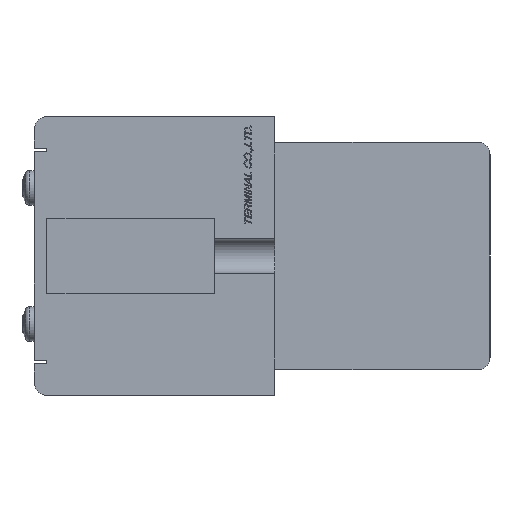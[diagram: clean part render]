
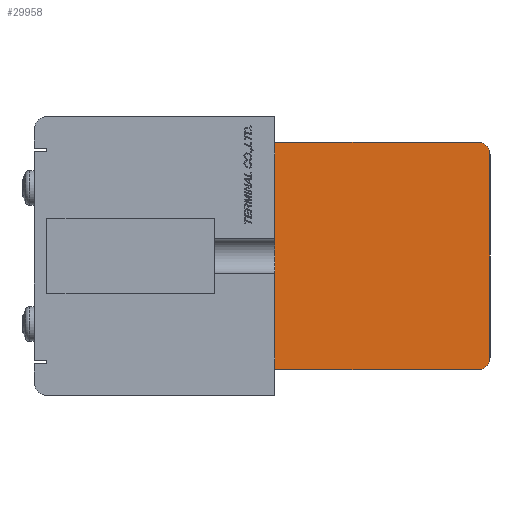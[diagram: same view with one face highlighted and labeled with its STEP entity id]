
A CAD part, left-side view. The second image highlights one B-rep face of the part: STEP entity #29958.
In plain terms, the highlighted planar face has unit normal (-1, 0, 0).
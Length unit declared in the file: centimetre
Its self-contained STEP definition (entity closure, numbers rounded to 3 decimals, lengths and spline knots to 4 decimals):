
#1834=VECTOR('',#34128,1.);
#1837=VECTOR('',#34136,1.);
#1838=VECTOR('',#34137,1.);
#1839=VECTOR('',#34138,1.);
#4852=LINE('',#42094,#1834);
#4855=LINE('',#42102,#1837);
#4856=LINE('',#42105,#1838);
#4857=LINE('',#42106,#1839);
#7828=VERTEX_POINT('',#42089);
#7829=VERTEX_POINT('',#42090);
#7830=VERTEX_POINT('',#42095);
#7831=VERTEX_POINT('',#42099);
#7832=VERTEX_POINT('',#42103);
#7833=VERTEX_POINT('',#42104);
#10231=CIRCLE('',#49383,0.2);
#10232=CIRCLE('',#49386,0.2);
#12214=EDGE_CURVE('',#7828,#7829,#10231,.T.);
#12217=EDGE_CURVE('',#7829,#7830,#4852,.T.);
#12219=EDGE_CURVE('',#7830,#7831,#10232,.T.);
#12221=EDGE_CURVE('',#7832,#7833,#4855,.T.);
#12222=EDGE_CURVE('',#7831,#7832,#4856,.T.);
#12223=EDGE_CURVE('',#7833,#7828,#4857,.T.);
#18261=ORIENTED_EDGE('',*,*,#12221,.F.);
#18262=ORIENTED_EDGE('',*,*,#12222,.F.);
#18263=ORIENTED_EDGE('',*,*,#12219,.F.);
#18264=ORIENTED_EDGE('',*,*,#12217,.F.);
#18265=ORIENTED_EDGE('',*,*,#12214,.F.);
#18266=ORIENTED_EDGE('',*,*,#12223,.F.);
#25940=EDGE_LOOP('',(#18261,#18262,#18263,#18264,#18265,#18266));
#27977=FACE_BOUND('',#25940,.T.);
#29958=ADVANCED_FACE('',(#27977),#31614,.F.);
#31614=PLANE('',#49387);
#34123=DIRECTION('',(1.,0.,0.));
#34124=DIRECTION('',(0.,0.,-0.2));
#34128=DIRECTION('',(0.,0.,-1.));
#34132=DIRECTION('',(1.,0.,0.));
#34133=DIRECTION('',(0.,0.,-0.2));
#34135=DIRECTION('',(1.,0.,0.));
#34136=DIRECTION('',(0.,0.,1.));
#34137=DIRECTION('',(0.,1.,0.));
#34138=DIRECTION('',(0.,-1.,0.));
#42088=CARTESIAN_POINT('',(-5.1,-3.2,1.6));
#42089=CARTESIAN_POINT('',(-5.1,-3.2,1.8));
#42090=CARTESIAN_POINT('',(-5.1,-3.4,1.6));
#42094=CARTESIAN_POINT('',(-5.1,-3.4,-1.6));
#42095=CARTESIAN_POINT('',(-5.1,-3.4,-1.6));
#42098=CARTESIAN_POINT('',(-5.1,-3.2,-1.6));
#42099=CARTESIAN_POINT('',(-5.1,-3.2,-1.8));
#42101=CARTESIAN_POINT('',(-5.1,-1.6784,0.));
#42102=CARTESIAN_POINT('',(-5.1,0.,1.8));
#42103=CARTESIAN_POINT('',(-5.1,0.,-1.8));
#42104=CARTESIAN_POINT('',(-5.1,0.,1.8));
#42105=CARTESIAN_POINT('',(-5.1,0.,-1.8));
#42106=CARTESIAN_POINT('',(-5.1,-3.2,1.8));
#49383=AXIS2_PLACEMENT_3D('',#42088,#34123,#34124);
#49386=AXIS2_PLACEMENT_3D('',#42098,#34132,#34133);
#49387=AXIS2_PLACEMENT_3D('',#42101,#34135,$);
